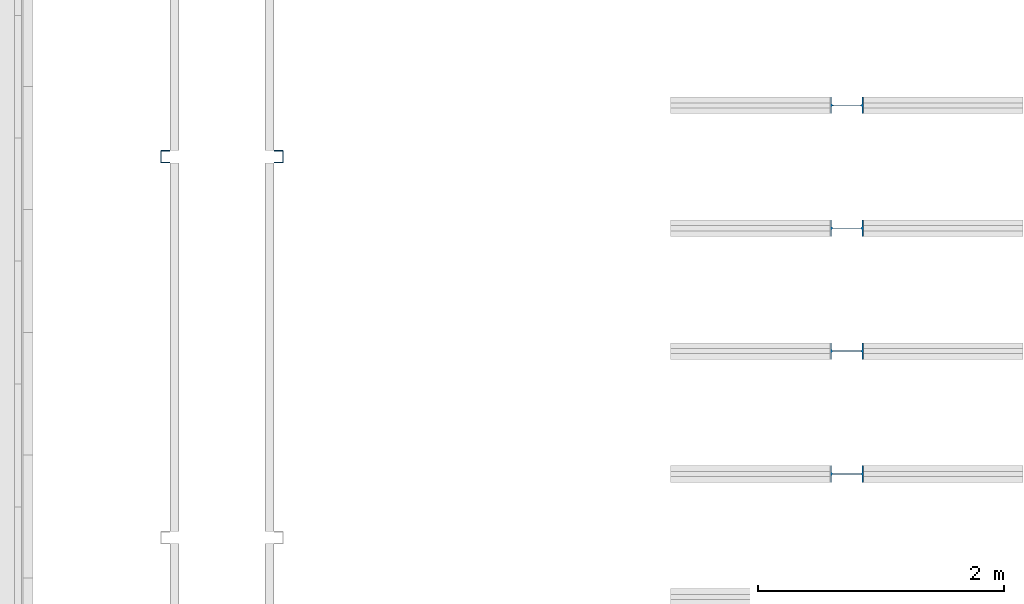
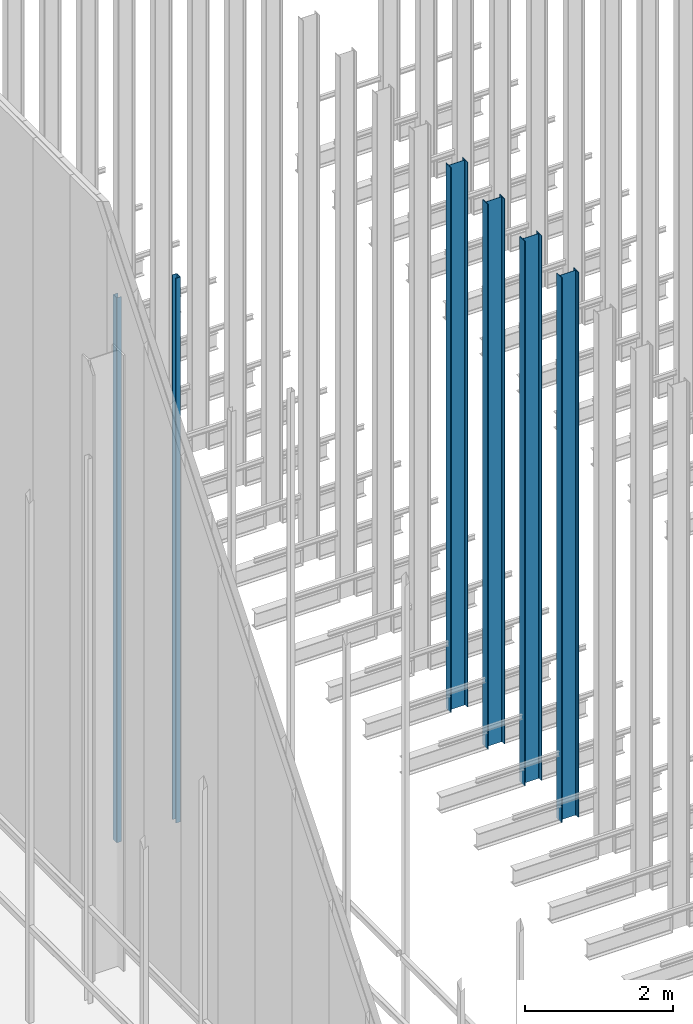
# One storey, part 52 of 302: 6 columns.
"""IFC2X3 building model written with IfcOpenShell, lengths in metres."""

from ifc_helpers import new_model, entity, si_unit, converted_unit, derived_unit, direction, frame, frame_2d, origin, place, context, subcontext, project, spatial, polyline, circle_curve, parameter, trimmed, segment, composite_curve, outline, extrude, source, transform, mapped, material, type_object, type_shapes, element, save


model = new_model("IFC2X3")

# Units and contexts
model_context = context("Model", 3, precision=1e-05, world=origin(), true_north=direction((6.12303176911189e-17, 1.0)))
body_context = subcontext(model_context, "Body", "Model", "MODEL_VIEW")
ifc_project = project(units=[si_unit("LENGTHUNIT", "METRE"), si_unit("AREAUNIT", "SQUARE_METRE"), si_unit("VOLUMEUNIT", "CUBIC_METRE"), converted_unit("PLANEANGLEUNIT", "DEGREE", entity("IfcRatioMeasure", 0.0174532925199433), si_unit("PLANEANGLEUNIT", "RADIAN"), dimensions=[0, 0, 0, 0, 0, 0, 0]), si_unit("MASSUNIT", "GRAM", prefix="KILO"), derived_unit("MASSDENSITYUNIT", [(si_unit("MASSUNIT", "GRAM", prefix="KILO"), 1), (si_unit("LENGTHUNIT", "METRE"), -3)]), derived_unit("MOMENTOFINERTIAUNIT", [(si_unit("LENGTHUNIT", "METRE"), 4)]), si_unit("TIMEUNIT", "SECOND"), si_unit("FREQUENCYUNIT", "HERTZ"), si_unit("THERMODYNAMICTEMPERATUREUNIT", "DEGREE_CELSIUS"), derived_unit("THERMALTRANSMITTANCEUNIT", [(si_unit("MASSUNIT", "GRAM", prefix="KILO"), 1), (si_unit("THERMODYNAMICTEMPERATUREUNIT", "KELVIN"), -1), (si_unit("TIMEUNIT", "SECOND"), -3)]), derived_unit("VOLUMETRICFLOWRATEUNIT", [(si_unit("LENGTHUNIT", "METRE"), 3), (si_unit("TIMEUNIT", "SECOND"), -1)]), si_unit("ELECTRICCURRENTUNIT", "AMPERE"), si_unit("ELECTRICVOLTAGEUNIT", "VOLT"), si_unit("POWERUNIT", "WATT"), si_unit("FORCEUNIT", "NEWTON", prefix="KILO"), si_unit("ILLUMINANCEUNIT", "LUX"), si_unit("LUMINOUSFLUXUNIT", "LUMEN"), si_unit("LUMINOUSINTENSITYUNIT", "CANDELA"), derived_unit("USERDEFINED", [(si_unit("MASSUNIT", "GRAM", prefix="KILO"), -1), (si_unit("LENGTHUNIT", "METRE"), -2), (si_unit("TIMEUNIT", "SECOND"), 3), (si_unit("LUMINOUSFLUXUNIT", "LUMEN"), 1)]), derived_unit("LINEARVELOCITYUNIT", [(si_unit("LENGTHUNIT", "METRE"), 1), (si_unit("TIMEUNIT", "SECOND"), -1)]), si_unit("PRESSUREUNIT", "PASCAL"), derived_unit("USERDEFINED", [(si_unit("LENGTHUNIT", "METRE"), -2), (si_unit("MASSUNIT", "GRAM", prefix="KILO"), 1), (si_unit("TIMEUNIT", "SECOND"), -2)]), derived_unit("LINEARFORCEUNIT", [(si_unit("MASSUNIT", "GRAM", prefix="KILO"), 1), (si_unit("LENGTHUNIT", "METRE"), 1), (si_unit("TIMEUNIT", "SECOND"), -2), (si_unit("LENGTHUNIT", "METRE"), -1)]), derived_unit("PLANARFORCEUNIT", [(si_unit("MASSUNIT", "GRAM", prefix="KILO"), 1), (si_unit("LENGTHUNIT", "METRE"), 1), (si_unit("TIMEUNIT", "SECOND"), -2), (si_unit("LENGTHUNIT", "METRE"), -2)])], contexts=[model_context])

# Site, building, storey
site_placement = place(None, origin())
site = spatial("IfcSite", under=ifc_project, at=site_placement, Name="Default", CompositionType="ELEMENT")
building_placement = place(site_placement, origin())
building = spatial("IfcBuilding", under=site, at=building_placement, CompositionType="ELEMENT")
storey_placement = place(building_placement, frame((0.0, 0.0, -1.3)))
storey = spatial("IfcBuildingStorey", under=building, at=storey_placement, Name="00_EG", CompositionType="ELEMENT", Elevation=-1.3)

# Columns
ifc_material = material(Name="Metall - Baustahl S235")
column_type_1 = type_object("IfcColumnType", Name="Leichter Stahl Schlossschrauben Stütze:C 100", PredefinedType="COLUMN", material=ifc_material)
shared_shape_1 = source(origin(), body_context, "Body", "SweptSolid", [
    extrude(outline(composite_curve([segment(polyline([(-0.0469749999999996, -0.0499999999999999), (0.0214500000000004, -0.0499999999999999)]), True, "CONTINUOUS"), segment(trimmed(circle_curve(frame_2d((0.0214500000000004, -0.0434249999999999), x_axis=(0.0, -1.0)), 0.00657500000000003), [parameter(0.0)], [parameter(89.9999999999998)], True, "PARAMETER"), True, "CONTINUOUS"), segment(polyline([(0.0280250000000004, -0.0434249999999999), (0.0280250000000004, 0.0434250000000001)]), True, "CONTINUOUS"), segment(trimmed(circle_curve(frame_2d((0.0214500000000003, 0.0434250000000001), x_axis=(1.0, 0.0)), 0.0065750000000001), [parameter(0.0)], [parameter(89.9999999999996)], True, "PARAMETER"), True, "CONTINUOUS"), segment(polyline([(0.0214500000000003, 0.0500000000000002), (-0.0469750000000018, 0.0500000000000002)]), True, "CONTINUOUS"), segment(polyline([(-0.0469750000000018, 0.0500000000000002), (-0.0469750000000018, 0.0450000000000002)]), True, "CONTINUOUS"), segment(polyline([(-0.0469750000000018, 0.0450000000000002), (0.0214500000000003, 0.0450000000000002)]), True, "CONTINUOUS"), segment(trimmed(circle_curve(frame_2d((0.0214500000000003, 0.0434249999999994), x_axis=(0.0, 1.0)), 0.00157500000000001), [parameter(269.999999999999)], [parameter(0.0)], True, "PARAMETER"), False, "CONTINUOUS"), segment(polyline([(0.0230250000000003, 0.0434249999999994), (0.0230250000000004, -0.0434249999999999)]), True, "CONTINUOUS"), segment(trimmed(circle_curve(frame_2d((0.0214500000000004, -0.0434249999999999), x_axis=(1.0, 0.0)), 0.00157500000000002), [parameter(270.0)], [parameter(0.0)], True, "PARAMETER"), False, "CONTINUOUS"), segment(polyline([(0.0214500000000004, -0.0449999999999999), (-0.0469749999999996, -0.0449999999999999)]), True, "CONTINUOUS"), segment(polyline([(-0.0469749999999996, -0.0449999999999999), (-0.0469749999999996, -0.0499999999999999)]), True, "CONTINUOUS")], self_intersect=False)), frame((0.0499999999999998, 0.0280250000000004, -0.0300000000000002), z_axis=(0.0, 0.0, 1.0), x_axis=(0.0, -1.0, 0.0)), (0.0, 0.0, 1.0), 9.0),
])
type_shapes(column_type_1, [shared_shape_1])
column_1_placement = place(storey_placement, frame((-176.230111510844, 42.648088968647, 1.3), z_axis=(0.0, 0.0, 1.0), x_axis=(0.0, -1.0, 0.0)))
element("IfcColumn", 1, at=column_1_placement, inside=storey, type_object=column_type_1, material=ifc_material, Name="Leichter Stahl Schlossschrauben Stütze:C 100", ObjectType="Leichter Stahl Schlossschrauben Stütze:C 100", context=body_context, shape_type="MappedRepresentation", body=[
    mapped(shared_shape_1, transform((0.0, 0.0, 0.0), scale=1.0)),
])
column_type_2 = type_object("IfcColumnType", Name="Leichter Stahl Schlossschrauben Stütze:C 100", PredefinedType="COLUMN", material=ifc_material)
shared_shape_2 = source(origin(), body_context, "Body", "SweptSolid", [
    extrude(outline(composite_curve([segment(polyline([(-0.0214500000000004, -0.0499999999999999), (0.0469749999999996, -0.0499999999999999)]), True, "CONTINUOUS"), segment(polyline([(0.0469749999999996, -0.0499999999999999), (0.0469749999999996, -0.0449999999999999)]), True, "CONTINUOUS"), segment(polyline([(0.0469749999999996, -0.0449999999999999), (-0.0214500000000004, -0.045)]), True, "CONTINUOUS"), segment(trimmed(circle_curve(frame_2d((-0.0214500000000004, -0.043425), x_axis=(0.0, -1.0)), 0.00157500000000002), [parameter(270.0)], [parameter(0.0)], True, "PARAMETER"), False, "CONTINUOUS"), segment(polyline([(-0.0230250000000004, -0.0434249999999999), (-0.0230250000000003, 0.0434249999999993)]), True, "CONTINUOUS"), segment(trimmed(circle_curve(frame_2d((-0.0214500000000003, 0.0434249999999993), x_axis=(-1.0, 0.0)), 0.00157500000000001), [parameter(269.999999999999)], [parameter(0.0)], True, "PARAMETER"), False, "CONTINUOUS"), segment(polyline([(-0.0214500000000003, 0.0450000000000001), (0.0469750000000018, 0.0450000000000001)]), True, "CONTINUOUS"), segment(polyline([(0.0469750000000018, 0.0450000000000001), (0.0469750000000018, 0.0500000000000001)]), True, "CONTINUOUS"), segment(polyline([(0.0469750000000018, 0.0500000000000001), (-0.0214500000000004, 0.0500000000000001)]), True, "CONTINUOUS"), segment(trimmed(circle_curve(frame_2d((-0.0214500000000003, 0.043425), x_axis=(0.0, 1.0)), 0.0065750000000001), [parameter(0.0)], [parameter(89.9999999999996)], True, "PARAMETER"), True, "CONTINUOUS"), segment(polyline([(-0.0280250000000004, 0.043425), (-0.0280250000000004, -0.043425)]), True, "CONTINUOUS"), segment(trimmed(circle_curve(frame_2d((-0.0214500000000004, -0.0434249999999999), x_axis=(-1.0, 0.0)), 0.00657500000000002), [parameter(0.0)], [parameter(89.9999999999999)], True, "PARAMETER"), True, "CONTINUOUS")], self_intersect=False)), frame((0.0499999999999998, -0.0280250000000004, -0.0300000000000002), z_axis=(0.0, 0.0, 1.0), x_axis=(0.0, -1.0, 0.0)), (0.0, 0.0, 1.0), 9.0),
])
type_shapes(column_type_2, [shared_shape_2])
column_2_placement = place(storey_placement, frame((-175.230111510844, 42.648088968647, 1.3), z_axis=(0.0, 0.0, 1.0), x_axis=(0.0, -1.0, 0.0)))
element("IfcColumn", 2, at=column_2_placement, inside=storey, type_object=column_type_2, material=ifc_material, Name="Leichter Stahl Schlossschrauben Stütze:C 100", ObjectType="Leichter Stahl Schlossschrauben Stütze:C 100", context=body_context, shape_type="MappedRepresentation", body=[
    mapped(shared_shape_2, transform((0.0, 0.0, 0.0), scale=1.0)),
])
column_type_3 = type_object("IfcColumnType", Name="IPE Stütze:IPE 270", PredefinedType="COLUMN", material=ifc_material)
shared_shape_3 = source(origin(), body_context, "Body", "SweptSolid", [
    extrude(outline(composite_curve([segment(polyline([(0.1248, -0.0675), (0.135, -0.0675)]), True, "CONTINUOUS"), segment(polyline([(0.135, -0.0675), (0.135, 0.0675)]), True, "CONTINUOUS"), segment(polyline([(0.135, 0.0675), (0.1248, 0.0675)]), True, "CONTINUOUS"), segment(polyline([(0.1248, 0.0675), (0.1248, 0.0183)]), True, "CONTINUOUS"), segment(trimmed(circle_curve(frame_2d((0.1098, 0.0183), x_axis=(1.0, 0.0)), 0.015), [parameter(270.0)], [parameter(0.0)], True, "PARAMETER"), False, "CONTINUOUS"), segment(polyline([(0.1098, 0.0033), (-0.1098, 0.0033)]), True, "CONTINUOUS"), segment(trimmed(circle_curve(frame_2d((-0.1098, 0.0183), x_axis=(0.0, -1.0)), 0.015), [parameter(270.0)], [parameter(0.0)], True, "PARAMETER"), False, "CONTINUOUS"), segment(polyline([(-0.1248, 0.0183), (-0.1248, 0.0675)]), True, "CONTINUOUS"), segment(polyline([(-0.1248, 0.0675), (-0.135, 0.0675)]), True, "CONTINUOUS"), segment(polyline([(-0.135, 0.0675), (-0.135, -0.0675)]), True, "CONTINUOUS"), segment(polyline([(-0.135, -0.0675), (-0.1248, -0.0675)]), True, "CONTINUOUS"), segment(polyline([(-0.1248, -0.0675), (-0.1248, -0.0183)]), True, "CONTINUOUS"), segment(trimmed(circle_curve(frame_2d((-0.1098, -0.0183), x_axis=(-1.0, 0.0)), 0.015), [parameter(269.999999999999)], [parameter(0.0)], True, "PARAMETER"), False, "CONTINUOUS"), segment(polyline([(-0.1098, -0.0033), (0.1098, -0.0033)]), True, "CONTINUOUS"), segment(trimmed(circle_curve(frame_2d((0.1098, -0.0183), x_axis=(0.0, 1.0)), 0.015), [parameter(270.0)], [parameter(0.0)], True, "PARAMETER"), False, "CONTINUOUS"), segment(polyline([(0.1248, -0.0183), (0.1248, -0.0675)]), True, "CONTINUOUS")], self_intersect=False)), frame((0.0, 0.0, -0.0300000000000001), z_axis=(0.0, 0.0, 1.0), x_axis=(0.0, -1.0, 0.0)), (0.0, 0.0, 1.0), 9.0),
])
type_shapes(column_type_3, [shared_shape_3])
for number, where, z_axis, x_axis in (
    (3, (-170.645111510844, 43.0155889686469, 1.3), (0.0, 0.0, 1.0), (0.0, 1.0, 0.0)),
    (4, (-170.645111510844, 42.0155889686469, 1.3), (0.0, 0.0, 1.0), (0.0, 1.0, 0.0)),
    (5, (-170.645111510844, 41.0155889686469, 1.3), (0.0, 0.0, 1.0), (0.0, 1.0, 0.0)),
    (6, (-170.645111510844, 40.015588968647, 1.3), (0.0, 0.0, 1.0), (0.0, 1.0, 0.0)),
):
    element("IfcColumn", number, at=place(storey_placement, frame(where, z_axis=z_axis, x_axis=x_axis)), inside=storey, type_object=column_type_3, material=ifc_material, Name="IPE Stütze:IPE 270", ObjectType="IPE Stütze:IPE 270", context=body_context, shape_type="MappedRepresentation", body=[
        mapped(shared_shape_3, transform((0.0, 0.0, 0.0), scale=1.0)),
    ])

save(model, "model.ifc")
